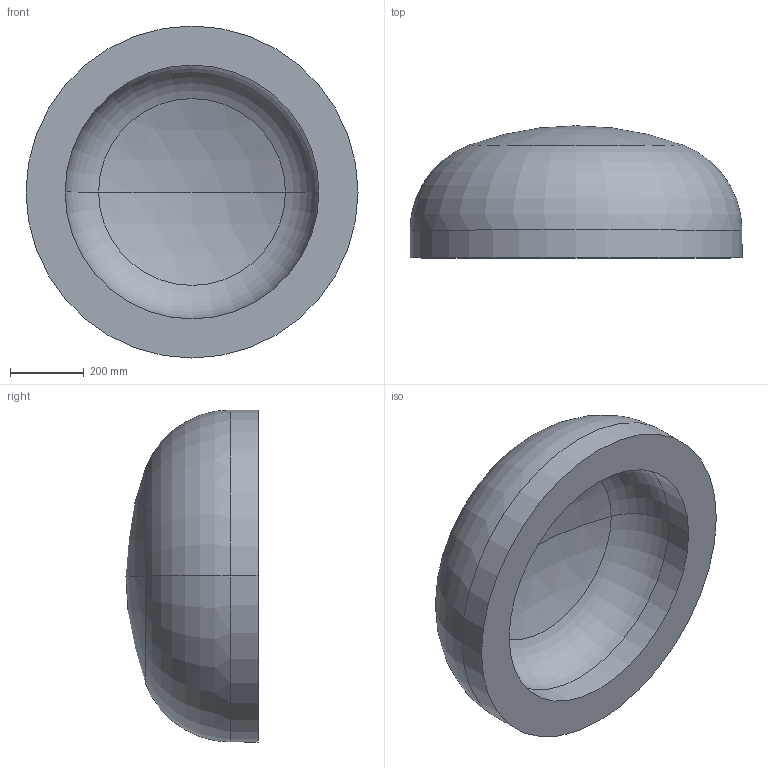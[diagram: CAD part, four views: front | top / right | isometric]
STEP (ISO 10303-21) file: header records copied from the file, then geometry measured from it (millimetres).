
FILE_DESCRIPTION (( 'STEP AP203' ), '1' );
FILE_NAME ('DIN 28013 Korbbogenform_-_Boden DIN 28013 - 900 x 75 - I - s=106.step', '2016-07-01T08:38:58', ( '' ), ( '' ), 'SwSTEP 2.0', 'SolidWorks 2013', '' );
FILE_SCHEMA (( 'CONFIG_CONTROL_DESIGN' ));
Length unit declared in the file: millimetre
Products named in the file (1): DIN 28013 Korbbogenform_-_Boden DIN 28013 - 900 x 75 - I - s=106
Bounding box: 900 x 358.06 x 900 mm (x, y, z)
Volume: 100871533.6 mm3; surface area: 2191177.9 mm2
Topology: 1 solids, 1 shells, 13 faces, 24 edges, 14 vertices
Faces by surface type: torus 4, cylinder 4, sphere 4, plane 1
Entity records: 407 total; most frequent: DIRECTION 72, CARTESIAN_POINT 52, ORIENTED_EDGE 48, AXIS2_PLACEMENT_3D 34, EDGE_CURVE 24, CIRCLE 20, EDGE_LOOP 14, VERTEX_POINT 14
